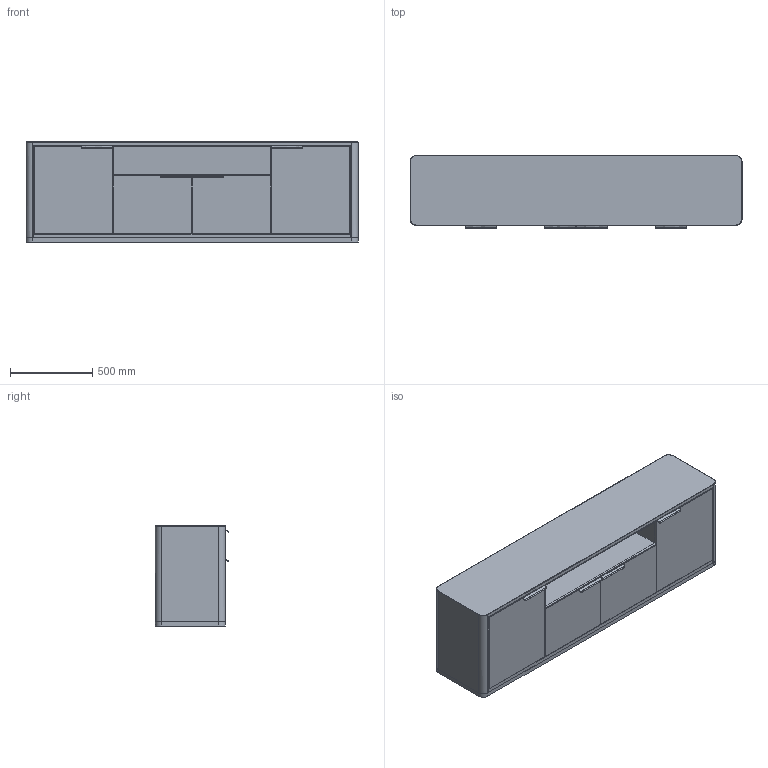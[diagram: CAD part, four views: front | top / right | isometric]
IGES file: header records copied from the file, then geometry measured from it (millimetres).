
Start section: Comment
Global section: file name: ZB-SB-2017-H3 - V01 - Sockel.igs; native system:  By UGS Corp.; preprocessor: XPlus GENERIC/IGES 3.0; author: Author; organization: Title; date: 20210906.144523; units: inch
Bounding box: 2017 x 445.33 x 607.6 mm (x, y, z)
Surface area: 7678915.1 mm2 (no closed solid volume)
Topology: 0 solids, 0 shells, 169 faces, 860 edges, 860 vertices
Faces by surface type: bspline 169
